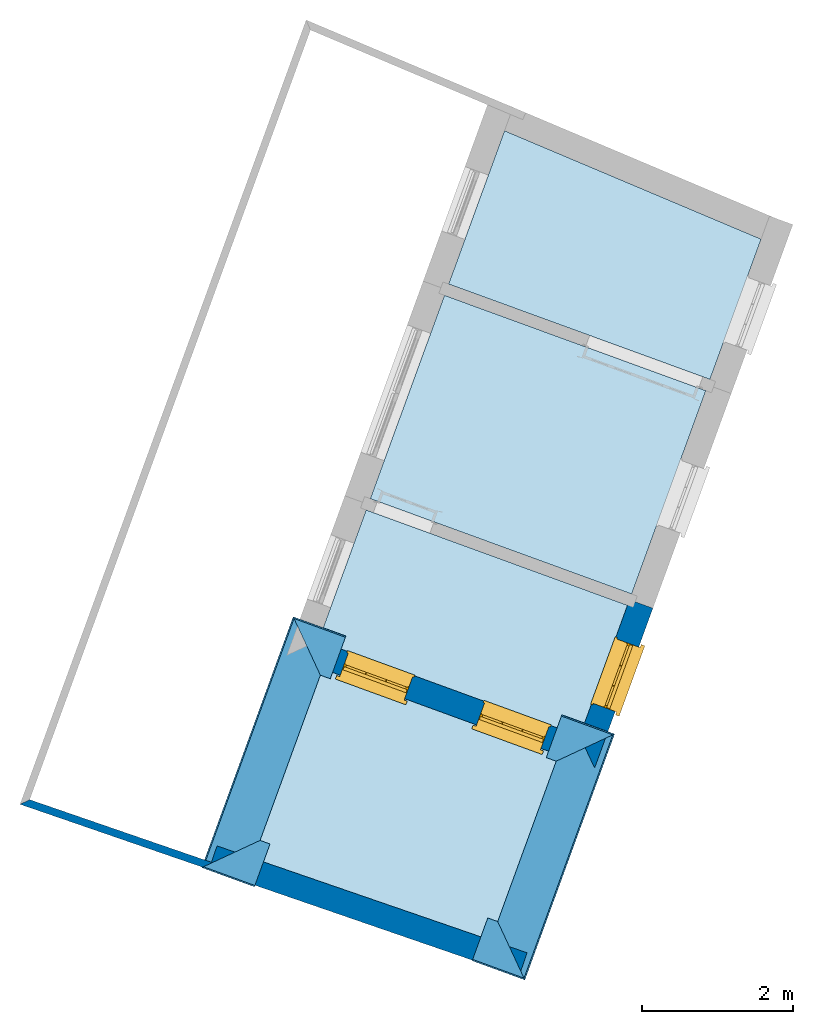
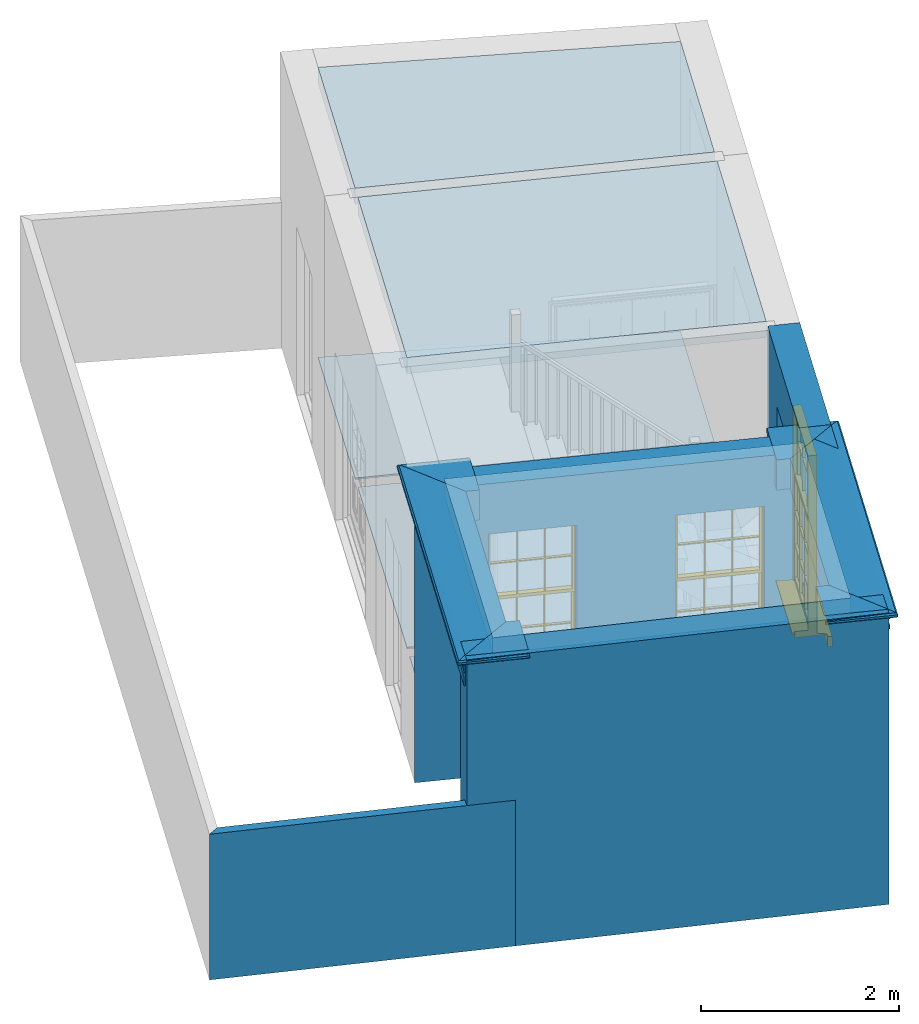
# One storey, part 1 of 6: 6 beams, 6 slabs, 4 walls, 3 windows, 3 openings.
"""IFC4 building model written with IfcOpenShell, lengths in metres."""

import ifcopenshell
import ifcopenshell.guid

model = None  # the IFC model being written
_history = None  # IfcOwnerHistory: only IFC2X3 demands one
_inside = {}  # id of a spatial element -> (the spatial element, [elements in it])
_under = {}  # id of a project, library or spatial element -> (it, [spatial elements below it])
_declared = {}  # id of a project -> (the project, [libraries it declares])
_typed = {}  # id of a type object -> (the type object, [elements of that type])
_made_of = {}  # id of a material, layer set ... -> (it, [elements and type objects made of it])


def new_model(schema):
    """Start an empty IFC model of exactly this schema.

    Asked for "IFC4X3", IfcOpenShell would pick the latest addendum, in which some entities
    have other attributes; the version numbers below select the first issue.
    IFC2X3 requires an IfcOwnerHistory on every rooted entity: one is made here for all.
    """
    global model, _history
    if schema == "IFC4X3":
        model = ifcopenshell.file(schema_version=(4, 3, 0, 0))
    else:
        model = ifcopenshell.file(schema=schema)
    _inside.clear()
    _under.clear()
    _declared.clear()
    _typed.clear()
    _made_of.clear()
    _history = None
    if model.schema == "IFC2X3":
        org = make("IfcOrganization", Name="unknown")
        user = make(
            "IfcPersonAndOrganization",
            ThePerson=make("IfcPerson", FamilyName="unknown"),
            TheOrganization=org,
        )
        app = make(
            "IfcApplication",
            ApplicationDeveloper=org,
            Version="unknown",
            ApplicationFullName="unknown",
            ApplicationIdentifier="unknown",
        )
        _history = make(
            "IfcOwnerHistory",
            OwningUser=user,
            OwningApplication=app,
            ChangeAction="ADDED",
            CreationDate=0,
        )
    return model


def make(cls, **values):
    """One entity of the class cls with the attributes given. An attribute that is None is left unset."""
    return model.create_entity(
        cls, **{name: value for name, value in values.items() if value is not None}
    )


def rooted(cls, **values):
    """An entity with a GlobalId (a new one), such as an element, a storey or a relation."""
    return make(cls, GlobalId=ifcopenshell.guid.new(), OwnerHistory=_history, **values)


def si_unit(unit_type, name, prefix=None):
    """IfcSIUnit, for example si_unit("LENGTHUNIT", "METRE", prefix="MILLI")."""
    return make("IfcSIUnit", UnitType=unit_type, Prefix=prefix, Name=name)


def assignment(units):
    """IfcUnitAssignment: the units of a project."""
    return None if units is None else make("IfcUnitAssignment", Units=units)


def point(xyz):
    """IfcCartesianPoint."""
    return None if xyz is None else make("IfcCartesianPoint", Coordinates=xyz)


def direction(xyz):
    """IfcDirection."""
    return None if xyz is None else make("IfcDirection", DirectionRatios=xyz)


def frame(location, z_axis=None, x_axis=None):
    """IfcAxis2Placement3D, a coordinate frame: its origin and axes. An axis left out is left unset."""
    return make(
        "IfcAxis2Placement3D",
        Location=point(location),
        Axis=direction(z_axis),
        RefDirection=direction(x_axis),
    )


def origin():
    """The frame at (0, 0, 0) with its axes left unset."""
    return frame((0.0, 0.0, 0.0))


def origin_with_axes():
    """The frame at (0, 0, 0) with the z axis (0, 0, 1) and the x axis (1, 0, 0) written out."""
    return frame((0.0, 0.0, 0.0), z_axis=(0.0, 0.0, 1.0), x_axis=(1.0, 0.0, 0.0))


def place(relative_to, where):
    """IfcLocalPlacement: puts the frame where relative to a parent placement (None: the world)."""
    return make(
        "IfcLocalPlacement", PlacementRelTo=relative_to, RelativePlacement=where
    )


def context(
    kind, dimensions, precision=None, world=None, true_north=None, identifier=None
):
    """IfcGeometricRepresentationContext, for example the 3D "Model" context."""
    return make(
        "IfcGeometricRepresentationContext",
        ContextIdentifier=identifier,
        ContextType=kind,
        CoordinateSpaceDimension=dimensions,
        Precision=precision,
        WorldCoordinateSystem=world,
        TrueNorth=true_north,
    )


def subcontext(parent, identifier, kind, view, scale=None):
    """IfcGeometricRepresentationSubContext, for example "Body" below "Model"."""
    return make(
        "IfcGeometricRepresentationSubContext",
        ContextIdentifier=identifier,
        ContextType=kind,
        ParentContext=parent,
        TargetScale=scale,
        TargetView=view,
    )


def project(units=None, contexts=None):
    """IfcProject with its units and contexts."""
    return rooted(
        "IfcProject",
        Name="project",
        RepresentationContexts=contexts,
        UnitsInContext=assignment(units),
    )


def spatial(cls, under=None, at=None, **own):
    """A site, building, storey or space (cls), placed at a placement, below another one or the project."""
    s = rooted(cls, ObjectPlacement=at, **own)
    if under is not None:
        _under.setdefault(under.id(), (under, []))[1].append(s)
    return s


def polyline(points):
    """IfcPolyline through the points."""
    return make("IfcPolyline", Points=[point(p) for p in points])


def outline(outer, holes=None, kind="AREA"):
    """IfcArbitraryClosedProfileDef: a profile drawn as a closed curve; with holes, ...WithVoids."""
    if holes is None:
        return make("IfcArbitraryClosedProfileDef", ProfileType=kind, OuterCurve=outer)
    return make(
        "IfcArbitraryProfileDefWithVoids",
        ProfileType=kind,
        OuterCurve=outer,
        InnerCurves=holes,
    )


def extrude(swept, where, along, depth):
    """IfcExtrudedAreaSolid: the profile swept, set in the frame where, extruded along a direction by depth."""
    return make(
        "IfcExtrudedAreaSolid",
        SweptArea=swept,
        Position=where,
        ExtrudedDirection=direction(along),
        Depth=depth,
    )


def clip(a, b, op="DIFFERENCE"):
    """IfcBooleanClippingResult: the solid a cut by the half space b."""
    return make(
        "IfcBooleanClippingResult", Operator=op, FirstOperand=a, SecondOperand=b
    )


def halfspace(plane, agree):
    """IfcHalfSpaceSolid: all space on one side of the plane z = 0 of the frame plane."""
    return make(
        "IfcHalfSpaceSolid",
        BaseSurface=make("IfcPlane", Position=plane),
        AgreementFlag=agree,
    )


def faces_of(points, faces, orient=None, outer=None):
    """IfcFace entities. A face is a list of loops; a loop is a list of indices into points, from 0.

    orient and outer hold one flag for each loop. By default every Orientation is true, the
    first loop of a face is its IfcFaceOuterBound and the others are IfcFaceBound.
    """
    made = []
    for i, loops in enumerate(faces):
        bounds = []
        for j, loop in enumerate(loops):
            is_outer = j == 0 if outer is None else outer[i][j]
            bounds.append(
                make(
                    "IfcFaceOuterBound" if is_outer else "IfcFaceBound",
                    Bound=make("IfcPolyLoop", Polygon=[points[k] for k in loop]),
                    Orientation=True if orient is None else orient[i][j],
                )
            )
        made.append(make("IfcFace", Bounds=bounds))
    return made


def faceted_brep(points, faces, orient=None, outer=None, voids=None):
    """IfcFacetedBrep: a solid bounded by flat faces; with voids (closed shells), ...WithVoids."""
    shared = [point(p) for p in points]
    hull = make("IfcClosedShell", CfsFaces=faces_of(shared, faces, orient, outer))
    if voids is None:
        return make("IfcFacetedBrep", Outer=hull)
    return make(
        "IfcFacetedBrepWithVoids",
        Outer=hull,
        Voids=[
            make(cls, CfsFaces=faces_of(shared, fs, o, b)) for cls, fs, o, b in voids
        ],
    )


def shape(context_of_items, identifier, shape_type, items):
    """IfcShapeRepresentation: the items that make up one representation, for example the "Body"."""
    return make(
        "IfcShapeRepresentation",
        ContextOfItems=context_of_items,
        RepresentationIdentifier=identifier,
        RepresentationType=shape_type,
        Items=items,
    )


def source(mapping_origin, context_of_items, identifier, shape_type, items):
    """IfcRepresentationMap: a shape defined once, which mapped items show again and again."""
    return make(
        "IfcRepresentationMap",
        MappingOrigin=mapping_origin,
        MappedRepresentation=shape(context_of_items, identifier, shape_type, items),
    )


def transform(
    local_origin,
    x_axis=None,
    y_axis=None,
    z_axis=None,
    scale=None,
    scale2=None,
    scale3=None,
    uniform=True,
):
    """IfcCartesianTransformationOperator3D, or its non-uniform kind. x_axis, y_axis, z_axis: its Axis1, 2, 3."""
    if uniform:
        return make(
            "IfcCartesianTransformationOperator3D",
            Axis1=direction(x_axis),
            Axis2=direction(y_axis),
            LocalOrigin=point(local_origin),
            Scale=scale,
            Axis3=direction(z_axis),
        )
    return make(
        "IfcCartesianTransformationOperator3DnonUniform",
        Axis1=direction(x_axis),
        Axis2=direction(y_axis),
        LocalOrigin=point(local_origin),
        Scale=scale,
        Axis3=direction(z_axis),
        Scale2=scale2,
        Scale3=scale3,
    )


def mapped(mapping_source, mapping_target):
    """IfcMappedItem: shows the shape of a source again, moved by a transform."""
    return make(
        "IfcMappedItem", MappingSource=mapping_source, MappingTarget=mapping_target
    )


def material(Name=None, Category=None):
    """IfcMaterial."""
    return make("IfcMaterial", Name=Name, Category=Category)


def layer(
    of_material, thickness, ventilated=None, Name=None, Category=None, Priority=None
):
    """IfcMaterialLayer: one layer of a wall or slab, of a material (None: an air gap)."""
    return make(
        "IfcMaterialLayer",
        Material=of_material,
        LayerThickness=thickness,
        IsVentilated=ventilated,
        Name=Name,
        Category=Category,
        Priority=Priority,
    )


def layer_set(layers, Name=None):
    """IfcMaterialLayerSet."""
    return make("IfcMaterialLayerSet", MaterialLayers=layers, LayerSetName=Name)


def layer_usage(for_layer_set, set_direction, sense, offset, extent=None):
    """IfcMaterialLayerSetUsage: how a layer set lies in its element."""
    return make(
        "IfcMaterialLayerSetUsage",
        ForLayerSet=for_layer_set,
        LayerSetDirection=set_direction,
        DirectionSense=sense,
        OffsetFromReferenceLine=offset,
        ReferenceExtent=extent,
    )


def material_profile(
    of_material, cross_section, Name=None, Category=None, Priority=None
):
    """IfcMaterialProfile: a cross section and its material."""
    return make(
        "IfcMaterialProfile",
        Name=Name,
        Material=of_material,
        Profile=cross_section,
        Priority=Priority,
        Category=Category,
    )


def profile_set(profiles, Name=None, composite=None):
    """IfcMaterialProfileSet."""
    return make(
        "IfcMaterialProfileSet",
        Name=Name,
        MaterialProfiles=profiles,
        CompositeProfile=composite,
    )


def profile_usage(for_profile_set, cardinal=None, extent=None):
    """IfcMaterialProfileSetUsage: how a profile set lies along its element."""
    return make(
        "IfcMaterialProfileSetUsage",
        ForProfileSet=for_profile_set,
        CardinalPoint=cardinal,
        ReferenceExtent=extent,
    )


def made_of(thing, what):
    """Note that an element or type object is made of a material, layer set ...; save() writes the relation."""
    if what is not None:
        _made_of.setdefault(what.id(), (what, []))[1].append(thing)
    return thing


def type_object(cls, material=None, **own):
    """A type object (cls), such as IfcWallType, which elements share."""
    return made_of(rooted(cls, **own), material)


def type_shapes(of_type, sources):
    """Give a type object the sources (RepresentationMaps) that its elements show as mapped items."""
    of_type.RepresentationMaps = sources


def element(
    cls,
    number,
    at=None,
    inside=None,
    cuts=None,
    type_object=None,
    material=None,
    context=None,
    identifier="Body",
    shape_type=None,
    held_by="IfcProductDefinitionShape",
    body=None,
    shapes=None,
    **own,
):
    """One element of the class cls, such as IfcWall. Its Tag is "e" and its number.

    at: its placement. inside: the storey or other place that contains it. cuts: it is an
    opening in that element (IfcRelVoidsElement). A single representation is given by context,
    identifier, shape_type and body (its items); several are given by shapes. held_by: the class
    of the entity that holds the representations. save() writes the other relations.
    """
    e = rooted(cls, Tag="e%d" % number, ObjectPlacement=at, **own)
    if body is not None:
        shapes = [shape(context, identifier, shape_type, body)]
    if shapes is not None:
        e.Representation = make(held_by, Representations=shapes)
    if inside is not None:
        _inside.setdefault(inside.id(), (inside, []))[1].append(e)
    if cuts is not None:
        rooted(
            "IfcRelVoidsElement", RelatingBuildingElement=cuts, RelatedOpeningElement=e
        )
    if type_object is not None:
        _typed.setdefault(type_object.id(), (type_object, []))[1].append(e)
    return made_of(e, material)


def fill(opening, filler):
    """IfcRelFillsElement: the door or window that sits in an opening."""
    return rooted(
        "IfcRelFillsElement",
        RelatingOpeningElement=opening,
        RelatedBuildingElement=filler,
    )


def aggregate(whole, parts):
    """IfcRelAggregates: a whole, such as a stair, and the parts it consists of."""
    return rooted("IfcRelAggregates", RelatingObject=whole, RelatedObjects=parts)


def save(model, path):
    """Write the relations noted so far, then the file.

    IfcRelAggregates (storeys below a building ...), IfcRelContainedInSpatialStructure (elements
    in a storey), IfcRelDefinesByType, IfcRelAssociatesMaterial and IfcRelDeclares: one each for
    every whole, place, type object, material and project.
    """
    for whole, parts in _under.values():
        aggregate(whole, parts)
    for where, things in _inside.values():
        rooted(
            "IfcRelContainedInSpatialStructure",
            RelatedElements=things,
            RelatingStructure=where,
        )
    for kind, things in _typed.values():
        rooted("IfcRelDefinesByType", RelatedObjects=things, RelatingType=kind)
    for what, things in _made_of.values():
        rooted("IfcRelAssociatesMaterial", RelatedObjects=things, RelatingMaterial=what)
    for by, libraries in _declared.values():
        rooted("IfcRelDeclares", RelatingContext=by, RelatedDefinitions=libraries)
    model.write(path)


model = new_model("IFC4")

# Units and contexts
model_context = context("Model", 3, world=origin_with_axes())
body_context = subcontext(model_context, "Body", "Model", "MODEL_VIEW")
ifc_project = project(units=[si_unit("PLANEANGLEUNIT", "RADIAN"), si_unit("MASSUNIT", "GRAM", prefix="KILO"), si_unit("FORCEUNIT", "NEWTON", prefix="KILO"), si_unit("LENGTHUNIT", "METRE"), si_unit("AREAUNIT", "SQUARE_METRE"), si_unit("VOLUMEUNIT", "CUBIC_METRE")], contexts=[model_context, model_context])

# Sites, building, storey
site_1_placement = place(None, origin_with_axes())
site_1 = spatial("IfcSite", under=ifc_project, at=site_1_placement, Name="Tamar")
site_2_placement = place(site_1_placement, origin_with_axes())
site_2 = spatial("IfcSite", under=site_1, at=site_2_placement, Name="Site plot-14", CompositionType="ELEMENT")
building_placement = place(None, origin_with_axes())
building = spatial("IfcBuilding", under=site_2, at=building_placement, Name="Building plot-14", CompositionType="ELEMENT")
storey_placement = place(None, frame((0.0, 0.0, 26.8), z_axis=(0.0, 0.0, 1.0), x_axis=(1.0, 0.0, 0.0)))
storey = spatial("IfcBuildingStorey", under=building, at=storey_placement, Name="plot-14 0", CompositionType="ELEMENT", Elevation=26.8)

# Beams
ifc_material_profile_1 = material_profile(None, outline(polyline([(-0.26, 0.0), (-0.26, -0.37), (0.26, -0.37), (0.26, -0.235), (0.275, -0.235), (0.275, -0.2), (0.26, -0.2), (0.26, -0.11), (0.275, -0.11), (0.278, -0.098), (0.284, -0.089), (0.293, -0.083), (0.305, -0.08), (0.305, -0.065), (0.315, -0.065), (0.326, -0.063), (0.336, -0.056), (0.343, -0.047), (0.345, -0.035), (0.343, -0.023), (0.336, -0.014), (0.326, -0.007), (0.315, -0.005), (0.26, 0.0), (-0.26, 0.0)])))
ifc_profile_set_1 = profile_set([ifc_material_profile_1])
ifc_profile_usage_1 = profile_usage(ifc_profile_set_1)
beam_type_1 = type_object("IfcBeamType", Name="external beam_0", PredefinedType="NOTDEFINED", material=ifc_profile_set_1)
beam_1_placement = place(storey_placement, frame((248.606346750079, 309.682169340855, 3.6), z_axis=(0.939432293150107, -0.342734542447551, 0.0), x_axis=(0.342734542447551, 0.939432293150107, 0.0)))
element("IfcBeam", 1, at=beam_1_placement, inside=storey, type_object=beam_type_1, material=ifc_profile_usage_1, Name="external beam_0", context=body_context, shape_type="Clipping", body=[
    clip(clip(extrude(outline(polyline([(-0.26, 0.0), (-0.26, -0.37), (0.26, -0.37), (0.26, -0.235), (0.275, -0.235), (0.275, -0.2), (0.26, -0.2), (0.26, -0.11), (0.275, -0.11), (0.278, -0.098), (0.284, -0.089), (0.293, -0.083), (0.305, -0.08), (0.305, -0.065), (0.315, -0.065), (0.326, -0.063), (0.336, -0.056), (0.343, -0.047), (0.345, -0.035), (0.343, -0.023), (0.336, -0.014), (0.326, -0.007), (0.315, -0.005), (0.26, 0.0), (-0.26, 0.0)])), origin_with_axes(), (0.0, 0.0, 1.0), 2.39999999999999), halfspace(frame((0.0, 0.0, 1.39999999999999), z_axis=(-4.94621364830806e-15, 0.0, -1.0), x_axis=(0.0, 1.0, 0.0)), True)), halfspace(frame((0.0, 0.0, 1.0), z_axis=(-0.707106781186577, 0.0, -0.707106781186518), x_axis=(0.0, 1.0, 0.0)), False)),
])
ifc_profile_usage_2 = profile_usage(ifc_profile_set_1)
beam_2_placement = place(storey_placement, frame((248.224677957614, 305.718308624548, 3.6), z_axis=(0.342734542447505, 0.939432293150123, 0.0), x_axis=(-0.939432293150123, 0.342734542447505, 0.0)))
element("IfcBeam", 2, at=beam_2_placement, inside=storey, type_object=beam_type_1, material=ifc_profile_usage_2, Name="external beam_0", context=body_context, shape_type="Clipping", body=[
    clip(clip(extrude(outline(polyline([(-0.26, 0.0), (-0.26, -0.37), (0.26, -0.37), (0.26, -0.235), (0.275, -0.235), (0.275, -0.2), (0.26, -0.2), (0.26, -0.11), (0.275, -0.11), (0.278, -0.098), (0.284, -0.089), (0.293, -0.083), (0.305, -0.08), (0.305, -0.065), (0.315, -0.065), (0.326, -0.063), (0.336, -0.056), (0.343, -0.047), (0.345, -0.035), (0.343, -0.023), (0.336, -0.014), (0.326, -0.007), (0.315, -0.005), (0.26, 0.0), (-0.26, 0.0)])), origin_with_axes(), (0.0, 0.0, 1.0), 4.85458984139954), halfspace(frame((0.0, 0.0, 3.85458984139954), z_axis=(0.707106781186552, 0.0, -0.707106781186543), x_axis=(0.0, 1.0, 0.0)), True)), halfspace(frame((0.0, 0.0, 1.0), z_axis=(-0.707106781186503, 0.0, -0.707106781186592), x_axis=(0.0, 1.0, 0.0)), False)),
])
ifc_profile_usage_3 = profile_usage(ifc_profile_set_1)
beam_3_placement = place(storey_placement, frame((249.882617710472, 306.177912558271, 3.6), z_axis=(-0.939432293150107, 0.342734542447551, 0.0), x_axis=(-0.342734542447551, -0.939432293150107, 0.0)))
element("IfcBeam", 3, at=beam_3_placement, inside=storey, type_object=beam_type_1, material=ifc_profile_usage_3, Name="external beam_0", context=body_context, shape_type="Clipping", body=[
    clip(clip(extrude(outline(polyline([(-0.26, 0.0), (-0.26, -0.37), (0.26, -0.37), (0.26, -0.235), (0.275, -0.235), (0.275, -0.2), (0.26, -0.2), (0.26, -0.11), (0.275, -0.11), (0.278, -0.098), (0.284, -0.089), (0.293, -0.083), (0.305, -0.08), (0.305, -0.065), (0.315, -0.065), (0.326, -0.063), (0.336, -0.056), (0.343, -0.047), (0.345, -0.035), (0.343, -0.023), (0.336, -0.014), (0.326, -0.007), (0.315, -0.005), (0.26, 0.0), (-0.26, 0.0)])), origin_with_axes(), (0.0, 0.0, 1.0), 2.39999999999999), halfspace(frame((0.0, 0.0, 1.39999999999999), z_axis=(0.707106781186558, 0.0, -0.707106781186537), x_axis=(0.0, 1.0, 0.0)), True)), halfspace(frame((0.0, 0.0, 1.0), z_axis=(-4.94621364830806e-15, 0.0, -1.0), x_axis=(0.0, 1.0, 0.0)), False)),
])
ifc_material_profile_2 = material_profile(None, outline(polyline([(-0.26, 0.0), (-0.26, -0.37), (0.26, -0.37), (0.26, -0.235), (0.275, -0.235), (0.275, -0.2), (0.26, -0.2), (0.26, -0.11), (0.275, -0.11), (0.278, -0.098), (0.284, -0.089), (0.293, -0.083), (0.305, -0.08), (0.305, -0.065), (0.315, -0.065), (0.326, -0.063), (0.336, -0.056), (0.343, -0.047), (0.345, -0.035), (0.343, -0.023), (0.336, -0.014), (0.326, -0.007), (0.315, -0.005), (0.26, 0.0), (-0.26, 0.0)])))
ifc_profile_set_2 = profile_set([ifc_material_profile_2])
ifc_profile_usage_4 = profile_usage(ifc_profile_set_2)
beam_type_2 = type_object("IfcBeamType", Name="external beam_0", PredefinedType="NOTDEFINED", material=ifc_profile_set_2)
beam_4_placement = place(storey_placement, frame((253.149165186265, 305.059548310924, 3.6), z_axis=(-0.939432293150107, 0.342734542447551, 0.0), x_axis=(-0.342734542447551, -0.939432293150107, 0.0)))
element("IfcBeam", 4, at=beam_4_placement, inside=storey, type_object=beam_type_2, material=ifc_profile_usage_4, Name="external beam_0", context=body_context, shape_type="Clipping", body=[
    clip(clip(extrude(outline(polyline([(-0.26, 0.0), (-0.26, -0.37), (0.26, -0.37), (0.26, -0.235), (0.275, -0.235), (0.275, -0.2), (0.26, -0.2), (0.26, -0.11), (0.275, -0.11), (0.278, -0.098), (0.284, -0.089), (0.293, -0.083), (0.305, -0.08), (0.305, -0.065), (0.315, -0.065), (0.326, -0.063), (0.336, -0.056), (0.343, -0.047), (0.345, -0.035), (0.343, -0.023), (0.336, -0.014), (0.326, -0.007), (0.315, -0.005), (0.26, 0.0), (-0.26, 0.0)])), origin_with_axes(), (0.0, 0.0, 1.0), 2.39999999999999), halfspace(frame((0.0, 0.0, 1.39999999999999), z_axis=(-4.94621364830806e-15, 0.0, -1.0), x_axis=(0.0, 1.0, 0.0)), True)), halfspace(frame((0.0, 0.0, 1.0), z_axis=(-0.707106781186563, 0.0, -0.707106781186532), x_axis=(0.0, 1.0, 0.0)), False)),
])
ifc_profile_usage_5 = profile_usage(ifc_profile_set_2)
beam_5_placement = place(storey_placement, frame((253.507208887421, 308.958652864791, 3.6), z_axis=(-0.34273454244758, -0.939432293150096, 0.0), x_axis=(0.939432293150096, -0.34273454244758, 0.0)))
element("IfcBeam", 5, at=beam_5_placement, inside=storey, type_object=beam_type_2, material=ifc_profile_usage_5, Name="external beam_0", context=body_context, shape_type="Clipping", body=[
    clip(clip(extrude(outline(polyline([(-0.26, 0.0), (-0.26, -0.37), (0.26, -0.37), (0.26, -0.235), (0.275, -0.235), (0.275, -0.2), (0.26, -0.2), (0.26, -0.11), (0.275, -0.11), (0.278, -0.098), (0.284, -0.089), (0.293, -0.083), (0.305, -0.08), (0.305, -0.065), (0.315, -0.065), (0.326, -0.063), (0.336, -0.056), (0.343, -0.047), (0.345, -0.035), (0.343, -0.023), (0.336, -0.014), (0.326, -0.007), (0.315, -0.005), (0.26, 0.0), (-0.26, 0.0)])), origin_with_axes(), (0.0, 0.0, 1.0), 4.78565867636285), halfspace(frame((0.0, 0.0, 3.78565867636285), z_axis=(0.70710678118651, 0.0, -0.707106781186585), x_axis=(0.0, 1.0, 0.0)), True)), halfspace(frame((0.0, 0.0, 1.0), z_axis=(-0.707106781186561, 0.0, -0.707106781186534), x_axis=(0.0, 1.0, 0.0)), False)),
])
ifc_profile_usage_6 = profile_usage(ifc_profile_set_2)
beam_6_placement = place(storey_placement, frame((251.849269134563, 308.499048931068, 3.6), z_axis=(0.939432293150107, -0.342734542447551, 0.0), x_axis=(0.342734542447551, 0.939432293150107, 0.0)))
element("IfcBeam", 6, at=beam_6_placement, inside=storey, type_object=beam_type_2, material=ifc_profile_usage_6, Name="external beam_0", context=body_context, shape_type="Clipping", body=[
    clip(clip(extrude(outline(polyline([(-0.26, 0.0), (-0.26, -0.37), (0.26, -0.37), (0.26, -0.235), (0.275, -0.235), (0.275, -0.2), (0.26, -0.2), (0.26, -0.11), (0.275, -0.11), (0.278, -0.098), (0.284, -0.089), (0.293, -0.083), (0.305, -0.08), (0.305, -0.065), (0.315, -0.065), (0.326, -0.063), (0.336, -0.056), (0.343, -0.047), (0.345, -0.035), (0.343, -0.023), (0.336, -0.014), (0.326, -0.007), (0.315, -0.005), (0.26, 0.0), (-0.26, 0.0)])), origin_with_axes(), (0.0, 0.0, 1.0), 2.39999999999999), halfspace(frame((0.0, 0.0, 1.39999999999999), z_axis=(0.707106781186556, 0.0, -0.707106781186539), x_axis=(0.0, 1.0, 0.0)), True)), halfspace(frame((0.0, 0.0, 1.0), z_axis=(-4.94621364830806e-15, 0.0, -1.0), x_axis=(0.0, 1.0, 0.0)), False)),
])

# Slabs
slab_1_placement = place(storey_placement, frame((253.832374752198, 310.083346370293, 3.4)))
element("IfcSlab", 7, at=slab_1_placement, inside=storey, Name="My Slab", ObjectType="Slab", PredefinedType="FLOOR", context=body_context, shape_type="SweptSolid", body=[
    extrude(outline(polyline([(0.0, 0.0), (0.984615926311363, 2.69882338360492), (-2.4837702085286, 3.96420008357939), (-3.46838613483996, 1.26537669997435), (0.0, 0.0)])), origin_with_axes(), (0.0, 0.0, 1.0), 0.2),
])
slab_2_placement = place(storey_placement, frame((253.832374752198, 310.083346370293, 0.0)))
element("IfcSlab", 8, at=slab_2_placement, inside=storey, Name="My Slab", ObjectType="Slab", PredefinedType="FLOOR", context=body_context, shape_type="SweptSolid", body=[
    extrude(outline(polyline([(0.0, 0.0), (0.984615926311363, 2.69882338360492), (-2.4837702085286, 3.96420008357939), (-3.46838613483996, 1.26537669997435), (0.0, 0.0)])), origin_with_axes(), (0.0, 0.0, 1.0), 0.02),
])
slab_3_placement = place(storey_placement, frame((254.871828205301, 312.932478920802, 3.4)))
element("IfcSlab", 9, at=slab_3_placement, inside=storey, Name="My Slab", ObjectType="Slab", PredefinedType="FLOOR", context=body_context, shape_type="SweptSolid", body=[
    extrude(outline(polyline([(0.0, 0.0), (0.679026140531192, 1.8612045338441), (-2.72627771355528, 3.29948919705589), (-3.46838613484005, 1.2653766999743), (0.0, 0.0)])), origin_with_axes(), (0.0, 0.0, 1.0), 0.2),
])
slab_4_placement = place(storey_placement, frame((254.871828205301, 312.932478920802, 0.0)))
element("IfcSlab", 10, at=slab_4_placement, inside=storey, Name="My Slab", ObjectType="Slab", PredefinedType="FLOOR", context=body_context, shape_type="SweptSolid", body=[
    extrude(outline(polyline([(0.0, 0.0), (0.679026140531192, 1.8612045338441), (-2.72627771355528, 3.29948919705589), (-3.46838613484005, 1.2653766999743), (0.0, 0.0)])), origin_with_axes(), (0.0, 0.0, 1.0), 0.02),
])
slab_5_placement = place(storey_placement, frame((250.309151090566, 311.198413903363, 0.0)))
element("IfcSlab", 11, at=slab_5_placement, inside=storey, Name="My Slab", ObjectType="Slab", PredefinedType="FLOOR", context=body_context, shape_type="SweptSolid", body=[
    extrude(outline(polyline([(0.0, 0.0), (-0.633379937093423, -1.7360887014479), (2.83500619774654, -3.00146540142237), (3.46838613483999, -1.26537669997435), (0.0, 0.0)])), origin_with_axes(), (0.0, 0.0, 1.0), 0.02),
])
slab_6_placement = place(storey_placement, frame((253.089319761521, 308.046639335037, 3.4)))
element("IfcSlab", 12, at=slab_6_placement, inside=storey, Name="My Slab", ObjectType="Slab", PredefinedType="FLOOR", context=body_context, shape_type="SweptSolid", body=[
    extrude(outline(polyline([(0.0, 0.0), (-3.46838613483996, 1.26537669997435), (-4.44625763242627, -1.4149602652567), (-0.955227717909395, -2.61827056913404), (0.0, 0.0)])), origin_with_axes(), (0.0, 0.0, 1.0), 0.2),
])

# Wall, openings, windows
ifc_material_1 = material(Name="Masonry")
ifc_layer_1 = layer(ifc_material_1, 0.33, ventilated=False)
ifc_layer_set_1 = layer_set([ifc_layer_1], Name="exterior_0.08_0.25")
ifc_layer_usage_1 = layer_usage(ifc_layer_set_1, "AXIS2", "POSITIVE", -0.25)
wall_type_1 = type_object("IfcWallType", Name="exterior_0.08_0.25", PredefinedType="SOLIDWALL", material=ifc_layer_set_1)
wall_1_placement = place(storey_placement, frame((249.573197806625, 309.414589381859, 0.0), z_axis=(0.0, 0.0, 1.0), x_axis=(0.939432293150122, -0.34273454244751, 0.0)))
wall_1 = element("IfcWall", 13, at=wall_1_placement, inside=storey, type_object=wall_type_1, material=ifc_layer_usage_1, Name="exterior", context=body_context, shape_type="SweptSolid", body=[
    extrude(outline(polyline([(0.0799999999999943, 0.0800000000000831), (-0.250000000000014, -0.24999999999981), (4.1020022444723, -0.249999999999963), (3.77200224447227, 0.0799999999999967), (0.0799999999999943, 0.0800000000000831)])), origin_with_axes(), (0.0, 0.0, 1.0), 3.6),
])
opening_1_placement = place(wall_1_placement, frame((0.508000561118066, 0.0, 0.75)))
opening_1 = element("IfcOpeningElement", 14, at=opening_1_placement, cuts=wall_1, Name="My Opening", ObjectType="Opening", context=body_context, shape_type="SweptSolid", body=[
    extrude(outline(polyline([(0.0, -0.27), (0.909999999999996, -0.270000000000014), (0.910000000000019, 1.09999999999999), (2.34257058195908e-14, 1.1), (0.0, -0.27)])), origin_with_axes(), (0.0, 0.0, 1.0), 2.23),
])
opening_2_placement = place(wall_1_placement, frame((2.43400168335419, 0.0, 0.75)))
opening_2 = element("IfcOpeningElement", 15, at=opening_2_placement, cuts=wall_1, Name="My Opening", ObjectType="Opening", context=body_context, shape_type="SweptSolid", body=[
    extrude(outline(polyline([(0.0, -0.270000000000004), (0.909999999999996, -0.270000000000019), (0.910000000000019, 1.09999999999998), (2.30926389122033e-14, 1.1), (0.0, -0.270000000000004)])), origin_with_axes(), (0.0, 0.0, 1.0), 2.23),
])
window_type = type_object("IfcWindowType", Name="sash_big_taller", PartitioningType="DOUBLE_PANEL_HORIZONTAL", PredefinedType="NOTDEFINED")
shared_shape = source(origin(), body_context, "Body", "Brep", [
    faceted_brep([(0.033125, 0.145, 1.385209), (0.01, 0.145, 1.385209), (0.033125, 0.145, 1.786042), (0.876875, 0.145, 1.385209), (0.876875, 0.145, 1.786042), (0.9, 0.145, 1.385209), (0.876875, 0.145, 1.796042), (0.876875, 0.145, 2.196875), (0.9, 0.145, 2.22), (0.033125, 0.145, 2.196875), (0.033125, 0.145, 1.796042), (0.01, 0.145, 2.22), (0.876875, 0.115, 1.786042), (0.876875, 0.115, 1.385209), (0.9, 0.115, 1.347084), (0.033125, 0.115, 2.196875), (0.01, 0.115, 2.22), (0.033125, 0.115, 1.796042), (0.01, 0.115, 1.347084), (0.033125, 0.115, 1.385209), (0.033125, 0.115, 1.786042), (0.876875, 0.115, 2.196875), (0.876875, 0.115, 1.796042), (0.9, 0.115, 2.22), (0.033125, 0.145, 1.347084), (0.01, 0.145, 1.347084), (0.033125, 0.145, 0.94625), (0.876875, 0.145, 1.347084), (0.876875, 0.145, 0.94625), (0.9, 0.145, 1.347084), (0.876875, 0.145, 0.52625), (0.876875, 0.145, 0.125417), (0.9, 0.145, 0.077167), (0.033125, 0.145, 0.125417), (0.033125, 0.145, 0.52625), (0.01, 0.145, 0.077167), (-0.0425, 0.0, 0.01), (-0.0425, -0.05, 0.001667), (0.0, 0.0, 0.01), (0.9525, 0.0, 0.01), (0.91, 0.0, 0.01), (0.9525, -0.05, 0.001667), (-0.02, 0.33, 0.077167), (0.0, 0.33, 0.077167), (-0.02, 0.36, 0.077167), (0.0, 0.19, 0.077167), (0.01, 0.19, 0.077167), (0.91, 0.19, 0.077167), (0.91, 0.33, 0.077167), (0.9, 0.19, 0.077167), (0.93, 0.33, 0.077167), (0.93, 0.36, 0.077167), (0.01, 0.175, 1.385209), (0.9, 0.175, 1.385209), (0.876875, 0.175, 0.125417), (0.876875, 0.175, 0.52625), (0.9, 0.175, 0.077167), (0.876875, 0.175, 0.94625), (0.876875, 0.175, 1.347084), (0.033125, 0.175, 0.125417), (0.01, 0.175, 0.077167), (0.033125, 0.175, 0.52625), (0.033125, 0.175, 1.347084), (0.033125, 0.175, 0.94625), (-0.02, 0.33, 0.052167), (-0.02, 0.36, 0.052167), (0.93, 0.36, 0.052167), (0.93, 0.33, 0.052167), (0.91, 0.33, 0.052167), (0.0, 0.33, 0.052167), (0.91, 0.1, 0.026667), (0.0, 0.1, 0.026667), (-0.0425, -0.05, -0.123333), (0.9525, -0.05, -0.123333), (-0.0425, 0.0, -0.123333), (0.9525, 0.0, -0.123333), (0.01, 0.19, 2.22), (0.9, 0.19, 2.22), (0.0, 0.19, 2.23), (0.91, 0.19, 2.23), (0.01, 0.1, 0.077167), (0.9, 0.1, 0.077167), (0.592292, 0.145, 0.125417), (0.592292, 0.175, 0.125417), (0.317708, 0.175, 0.125417), (0.317708, 0.145, 0.125417), (0.592292, 0.145, 0.53625), (0.317708, 0.145, 0.53625), (0.317708, 0.145, 0.52625), (0.592292, 0.145, 0.52625), (0.592292, 0.175, 0.53625), (0.317708, 0.175, 0.53625), (0.592292, 0.115, 1.796042), (0.592292, 0.145, 1.796042), (0.317708, 0.145, 1.796042), (0.317708, 0.115, 1.796042), (0.317708, 0.115, 1.786042), (0.592292, 0.115, 1.786042), (0.317708, 0.145, 1.786042), (0.592292, 0.145, 1.786042), (0.602292, 0.115, 1.786042), (0.592292, 0.115, 1.385209), (0.602292, 0.115, 1.385209), (0.602292, 0.145, 1.385209), (0.592292, 0.145, 1.385209), (0.602292, 0.145, 1.786042), (0.876875, 0.145, 0.53625), (0.876875, 0.175, 0.53625), (0.602292, 0.175, 0.53625), (0.602292, 0.145, 0.53625), (0.317708, 0.175, 0.52625), (0.307708, 0.175, 0.125417), (0.307708, 0.175, 0.52625), (0.602292, 0.175, 0.52625), (0.602292, 0.175, 0.125417), (0.592292, 0.175, 0.52625), (0.307708, 0.175, 0.53625), (0.033125, 0.175, 0.53625), (0.317708, 0.175, 1.347084), (0.317708, 0.175, 0.94625), (0.307708, 0.175, 0.94625), (0.307708, 0.175, 1.347084), (0.602292, 0.175, 1.347084), (0.602292, 0.175, 0.94625), (0.592292, 0.175, 0.94625), (0.592292, 0.175, 1.347084), (0.307708, 0.145, 0.52625), (0.307708, 0.145, 0.125417), (0.307708, 0.145, 0.53625), (0.033125, 0.145, 0.53625), (0.307708, 0.145, 1.347084), (0.307708, 0.145, 0.94625), (0.592292, 0.145, 1.347084), (0.592292, 0.145, 0.94625), (0.317708, 0.145, 0.94625), (0.317708, 0.145, 1.347084), (0.602292, 0.145, 0.94625), (0.602292, 0.145, 1.347084), (0.602292, 0.145, 0.52625), (0.602292, 0.145, 0.125417), (0.307708, 0.115, 1.796042), (0.307708, 0.115, 1.786042), (0.307708, 0.115, 1.385209), (0.317708, 0.115, 1.385209), (0.317708, 0.115, 2.196875), (0.307708, 0.115, 2.196875), (0.602292, 0.115, 2.196875), (0.592292, 0.115, 2.196875), (0.602292, 0.115, 1.796042), (0.602292, 0.145, 1.796042), (0.307708, 0.145, 1.796042), (0.307708, 0.145, 2.196875), (0.317708, 0.145, 2.196875), (0.592292, 0.145, 2.196875), (0.602292, 0.145, 2.196875), (0.307708, 0.145, 1.786042), (0.317708, 0.145, 1.385209), (0.307708, 0.145, 1.385209), (0.876875, 0.175, 0.93625), (0.033125, 0.175, 0.93625), (0.033125, 0.145, 0.93625), (0.876875, 0.145, 0.93625), (0.91, 0.1, 2.23), (0.9, 0.1, 2.22), (0.01, 0.1, 2.22), (0.0, 0.1, 2.23), (0.91, 0.0, 0.0), (0.0, 0.0, 0.0), (0.91, 0.33, 0.0), (0.0, 0.33, 0.0), (0.317708, 0.145, 0.93625), (0.592292, 0.145, 0.93625), (0.317708, 0.175, 0.93625), (0.307708, 0.175, 0.93625), (0.602292, 0.175, 0.93625), (0.592292, 0.175, 0.93625), (0.307708, 0.145, 0.93625), (0.602292, 0.145, 0.93625)], [[[0, 1, 2]], [[3, 4, 5]], [[6, 7, 8]], [[9, 10, 11]], [[12, 13, 14]], [[15, 16, 17]], [[18, 19, 20]], [[21, 22, 23]], [[24, 25, 26]], [[27, 28, 29]], [[30, 31, 32]], [[33, 34, 35]], [[14, 27, 29]], [[25, 24, 18]], [[36, 37, 38]], [[39, 40, 41]], [[42, 43, 44]], [[45, 46, 43]], [[47, 48, 49]], [[50, 51, 48]], [[1, 0, 52]], [[5, 53, 3]], [[54, 55, 56]], [[57, 58, 53]], [[59, 60, 61]], [[62, 63, 52]], [[48, 43, 46, 49]], [[51, 44, 43, 48]], [[64, 42, 44, 65]], [[65, 44, 51, 66]], [[66, 51, 50, 67]], [[65, 66, 68, 69]], [[60, 56, 49, 46]], [[70, 71, 38, 40]], [[37, 41, 40, 38]], [[37, 72, 73, 41]], [[74, 75, 73, 72]], [[8, 11, 76, 77]], [[76, 78, 79, 77]], [[32, 35, 80, 81]], [[81, 80, 71, 70]], [[82, 83, 84, 85]], [[86, 87, 88, 89]], [[86, 90, 91, 87]], [[92, 93, 94, 95]], [[92, 95, 96, 97]], [[96, 98, 99, 97]], [[100, 97, 101, 102]], [[103, 104, 99, 105]], [[97, 99, 104, 101]], [[102, 103, 105, 100]], [[106, 107, 108, 109]], [[110, 84, 111, 112]], [[113, 114, 83, 115]], [[116, 112, 61, 117]], [[90, 115, 110, 91]], [[118, 119, 120, 121]], [[122, 123, 124, 125]], [[113, 108, 107, 55]], [[126, 112, 111, 127]], [[34, 61, 112, 126]], [[89, 115, 83, 82]], [[88, 110, 115, 89]], [[85, 84, 110, 88]], [[128, 116, 117, 129]], [[130, 121, 120, 131]], [[132, 125, 124, 133]], [[134, 119, 118, 135]], [[136, 123, 122, 137]], [[138, 113, 55, 30]], [[139, 114, 113, 138]], [[138, 30, 106, 109]], [[88, 126, 127, 85]], [[138, 89, 82, 139]], [[137, 132, 133, 136]], [[128, 129, 34, 126]], [[135, 130, 131, 134]], [[140, 17, 20, 141]], [[96, 141, 142, 143]], [[144, 145, 140, 95]], [[146, 147, 92, 148]], [[100, 12, 22, 148]], [[149, 6, 4, 105]], [[94, 150, 151, 152]], [[149, 93, 153, 154]], [[99, 98, 94, 93]], [[155, 2, 10, 150]], [[156, 157, 155, 98]], [[141, 155, 157, 142]], [[20, 2, 155, 141]], [[143, 156, 98, 96]], [[140, 150, 10, 17]], [[145, 151, 150, 140]], [[147, 153, 93, 92]], [[95, 94, 152, 144]], [[22, 6, 149, 148]], [[148, 149, 154, 146]], [[100, 105, 4, 12]], [[109, 86, 89, 138]], [[108, 113, 115, 90]], [[91, 110, 112, 116]], [[87, 128, 126, 88]], [[97, 100, 148, 92]], [[141, 96, 95, 140]], [[98, 155, 150, 94]], [[105, 99, 93, 149]], [[143, 101, 104, 156]], [[135, 118, 125, 132]], [[144, 152, 153, 147]], [[127, 111, 59, 33]], [[15, 9, 151, 145]], [[146, 154, 7, 21]], [[31, 54, 114, 139]], [[36, 74, 72, 37]], [[39, 41, 73, 75]], [[18, 14, 101, 143]], [[23, 16, 144, 147]], [[83, 56, 60, 84]], [[52, 53, 125, 118]], [[53, 52, 156, 104]], [[11, 8, 153, 152]], [[14, 18, 135, 132]], [[2, 1, 11, 10]], [[8, 5, 4, 6]], [[57, 53, 56, 158]], [[60, 52, 63, 159]], [[26, 25, 35, 160]], [[32, 29, 28, 161]], [[14, 23, 22, 12]], [[18, 20, 17, 16]], [[19, 0, 2, 20]], [[17, 10, 9, 15]], [[12, 4, 3, 13]], [[21, 7, 6, 22]], [[27, 58, 57, 28]], [[30, 55, 54, 31]], [[33, 59, 61, 34]], [[26, 63, 62, 24]], [[5, 8, 77, 53]], [[76, 11, 1, 52]], [[46, 45, 78, 76]], [[49, 77, 79, 47]], [[70, 162, 163, 81]], [[71, 80, 164, 165]], [[19, 142, 157, 0]], [[102, 13, 3, 103]], [[121, 130, 24, 62]], [[29, 32, 81, 14]], [[80, 35, 25, 18]], [[60, 46, 76, 52]], [[77, 49, 56, 53]], [[23, 14, 81, 163]], [[16, 164, 80, 18]], [[35, 85, 127]], [[127, 33, 35]], [[139, 82, 32]], [[32, 31, 139]], [[32, 82, 85, 35]], [[102, 101, 14]], [[14, 13, 102]], [[18, 143, 142]], [[142, 19, 18]], [[146, 21, 23]], [[23, 147, 146]], [[16, 15, 145]], [[145, 144, 16]], [[11, 152, 151]], [[151, 9, 11]], [[154, 153, 8]], [[8, 7, 154]], [[23, 163, 164, 16]], [[162, 165, 164, 163]], [[52, 118, 121]], [[121, 62, 52]], [[125, 53, 122]], [[58, 122, 53]], [[27, 137, 122, 58]], [[56, 83, 114]], [[114, 54, 56]], [[111, 84, 60]], [[60, 59, 111]], [[137, 27, 14]], [[14, 132, 137]], [[130, 135, 18]], [[18, 24, 130]], [[157, 156, 52]], [[52, 0, 157]], [[103, 3, 53]], [[53, 104, 103]], [[79, 78, 165, 162]], [[78, 45, 71, 165]], [[162, 70, 47, 79]], [[166, 75, 74, 167]], [[68, 66, 67]], [[48, 68, 67, 50]], [[69, 64, 65]], [[42, 64, 69, 43]], [[69, 68, 168, 169]], [[70, 68, 48, 47]], [[166, 168, 68, 70]], [[43, 69, 71, 45]], [[69, 169, 167, 71]], [[168, 166, 167, 169]], [[38, 167, 74, 36]], [[71, 167, 38]], [[39, 75, 166, 40]], [[40, 166, 70]], [[133, 134, 170, 171]], [[133, 124, 119, 134]], [[28, 57, 123, 136]], [[172, 91, 116, 173]], [[174, 108, 90, 175]], [[120, 173, 159, 63]], [[124, 175, 172, 119]], [[174, 123, 57, 158]], [[176, 173, 116, 128]], [[160, 159, 173, 176]], [[171, 175, 90, 86]], [[170, 172, 175, 171]], [[87, 91, 172, 170]], [[131, 120, 63, 26]], [[177, 174, 158, 161]], [[109, 108, 174, 177]], [[177, 161, 28, 136]], [[170, 176, 128, 87]], [[177, 171, 86, 109]], [[131, 26, 160, 176]], [[136, 133, 171, 177]], [[123, 174, 175, 124]], [[119, 172, 173, 120]], [[134, 131, 176, 170]], [[129, 117, 159, 160]], [[161, 158, 107, 106]], [[35, 34, 129]], [[35, 129, 160]], [[32, 106, 30]], [[32, 161, 106]], [[56, 55, 107]], [[56, 107, 158]], [[60, 117, 61]], [[60, 159, 117]]]),
])
type_shapes(window_type, [shared_shape])
window_1_placement = place(storey_placement, frame((249.957891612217, 308.986833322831, 0.75), z_axis=(0.0, 0.0, 1.0), x_axis=(0.854883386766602, -0.311888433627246, 0.0)))
window_1 = element("IfcWindow", 16, at=window_1_placement, inside=storey, type_object=window_type, Name="circulation outside window", OverallHeight=2.23, OverallWidth=0.91, context=body_context, shape_type="MappedRepresentation", body=[
    mapped(shared_shape, transform((0.0, 0.0, 0.0), scale=1.0)),
])
fill(opening_1, window_1)
window_2_placement = place(storey_placement, frame((251.767239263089, 308.326726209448, 0.75), z_axis=(0.0, 0.0, 1.0), x_axis=(0.854883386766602, -0.311888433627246, 0.0)))
window_2 = element("IfcWindow", 17, at=window_2_placement, inside=storey, type_object=window_type, Name="circulation outside window", OverallHeight=2.23, OverallWidth=0.91, context=body_context, shape_type="MappedRepresentation", body=[
    mapped(shared_shape, transform((0.0, 0.0, 0.0), scale=1.0)),
])
fill(opening_2, window_2)

# Wall, opening, window
wall_2_placement = place(storey_placement, frame((253.191893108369, 308.094375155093, 0.0), z_axis=(0.0, 0.0, 1.0), x_axis=(0.342734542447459, 0.93943229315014, 0.0)))
wall_2 = element("IfcWall", 18, at=wall_2_placement, inside=storey, type_object=wall_type_1, material=ifc_layer_usage_1, Name="exterior", context=body_context, shape_type="SweptSolid", body=[
    extrude(outline(polyline([(0.0800000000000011, 0.0799999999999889), (-0.249999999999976, -0.25000000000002), (2.00801897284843, -0.250000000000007), (2.00801897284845, 0.0800000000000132), (0.0800000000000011, 0.0799999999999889)])), origin_with_axes(), (0.0, 0.0, 1.0), 3.6),
])
opening_3_placement = place(wall_2_placement, frame((0.549009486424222, 0.0, 0.75)))
opening_3 = element("IfcOpeningElement", 19, at=opening_3_placement, cuts=wall_2, Name="My Opening", ObjectType="Opening", context=body_context, shape_type="SweptSolid", body=[
    extrude(outline(polyline([(0.0, -0.270000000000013), (0.90999999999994, -0.270000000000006), (0.909999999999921, 1.09999999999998), (-1.89848137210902e-14, 1.09999999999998), (0.0, -0.270000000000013)])), origin_with_axes(), (0.0, 0.0, 1.0), 2.23),
])
window_3_placement = place(storey_placement, frame((253.633704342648, 308.517594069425, 0.75), z_axis=(0.0, 0.0, 1.0), x_axis=(0.311888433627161, 0.854883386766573, 0.0)))
window_3 = element("IfcWindow", 20, at=window_3_placement, inside=storey, type_object=window_type, Name="circulation street window", OverallHeight=2.23, OverallWidth=0.91, context=body_context, shape_type="MappedRepresentation", body=[
    mapped(shared_shape, transform((0.0, 0.0, 0.0), scale=1.0)),
])
fill(opening_3, window_3)

# Walls
ifc_material_2 = material(Name="Masonry")
ifc_layer_2 = layer(ifc_material_2, 0.33, ventilated=False)
ifc_layer_set_2 = layer_set([ifc_layer_2], Name="party_0.08_0.25")
ifc_layer_usage_2 = layer_usage(ifc_layer_set_2, "AXIS2", "POSITIVE", -0.25)
wall_type_2 = type_object("IfcWallType", Name="party_0.08_0.25", PredefinedType="SOLIDWALL", material=ifc_layer_set_2)
wall_3_placement = place(storey_placement, frame((248.539993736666, 306.582586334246, 0.0), z_axis=(0.0, 0.0, 1.0), x_axis=(0.945414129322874, -0.325871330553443, 0.0)))
element("IfcWall", 21, at=wall_3_placement, inside=storey, type_object=wall_type_2, material=ifc_layer_usage_2, Name="party", context=body_context, shape_type="SweptSolid", body=[
    extrude(outline(polyline([(-0.249999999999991, 0.0799999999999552), (-0.250000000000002, -0.250000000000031), (4.10261895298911, -0.249999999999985), (4.10261895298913, 0.0800000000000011), (-0.249999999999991, 0.0799999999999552)])), origin_with_axes(), (0.0, 0.0, 1.0), 3.6),
])
ifc_material_3 = material(Name="Masonry")
ifc_layer_3 = layer(ifc_material_3, 0.1, ventilated=False)
ifc_layer_set_3 = layer_set([ifc_layer_3], Name="fence_-0.15_0.25")
ifc_layer_usage_3 = layer_usage(ifc_layer_set_3, "AXIS2", "POSITIVE", -0.25)
wall_type_3 = type_object("IfcWallType", Name="fence_-0.15_0.25", PredefinedType="SOLIDWALL", material=ifc_layer_set_3)
wall_4_placement = place(storey_placement, frame((246.036138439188, 307.445631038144, 0.0), z_axis=(0.0, 0.0, 1.0), x_axis=(0.945414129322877, -0.325871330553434, 0.0)))
element("IfcWall", 22, at=wall_4_placement, inside=storey, type_object=wall_type_3, material=ifc_layer_usage_3, Name="fence", context=body_context, shape_type="SweptSolid", body=[
    extrude(outline(polyline([(-0.152708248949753, -0.150000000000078), (-0.254513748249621, -0.250000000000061), (2.89842170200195, -0.249999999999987), (2.89842170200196, -0.14999999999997), (-0.152708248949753, -0.150000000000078)])), origin_with_axes(), (0.0, 0.0, 1.0), 1.8),
])

save(model, "model.ifc")
